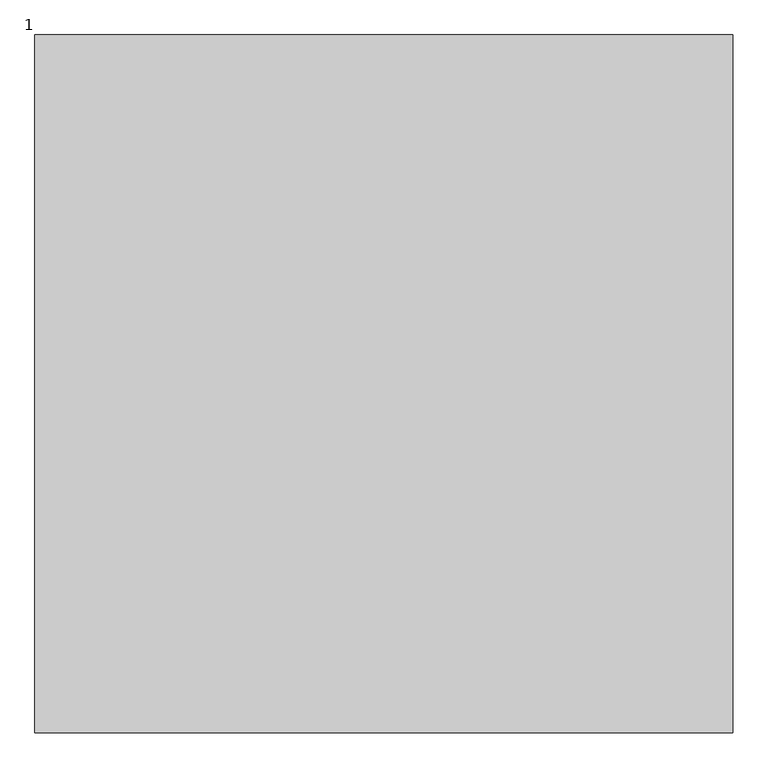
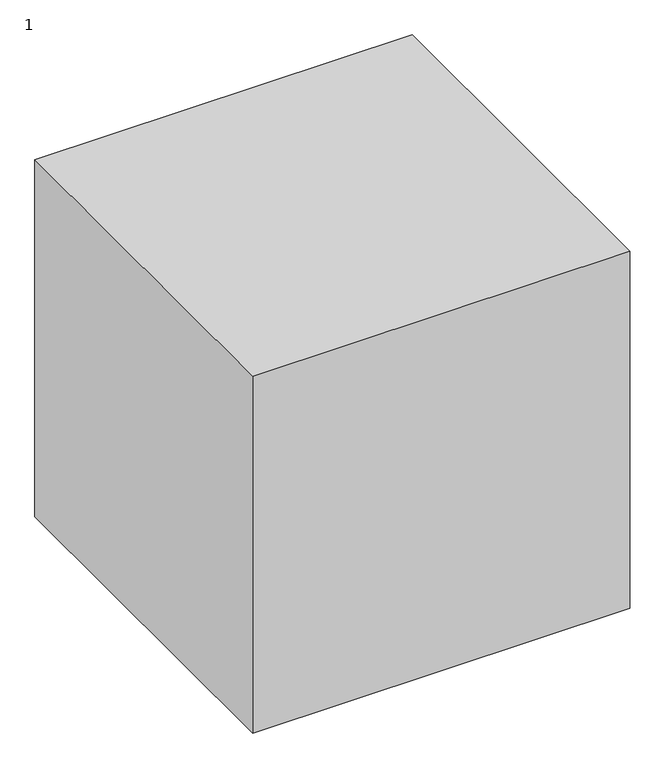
"""IFC4 building model written with IfcOpenShell, lengths in millimetres: proxy geometry, 1221111111 : 1."""

from ifc_helpers import new_model, si_unit, origin, origin_with_axes, place, context, project, spatial, polyline, outline, extrude, source, transform, mapped, element, save


def proxy_1_d043c502(model_context):
    return source(origin(), model_context, "Body", "SweptSolid", [
        extrude(outline(polyline([(15692.0243292, 15335.2294472), (15692.0243292, 14335.2294472), (14692.0243292, 14335.2294472), (14692.0243292, 15335.2294472), (15692.0243292, 15335.2294472)])), origin_with_axes(), (0.0, 0.0, 1.0), 1000.0),
    ])


if __name__ == "__main__":
    model = new_model("IFC4")
    model_context = context("Model", 3, world=origin())
    ifc_project = project(units=[si_unit("LENGTHUNIT", "METRE", prefix="MILLI")], contexts=[model_context])
    site = spatial("IfcSite", under=ifc_project)
    building = spatial("IfcBuilding", under=site)
    placement = place(None, origin())
    proxy_1_shape = proxy_1_d043c502(model_context)
    element("IfcBuildingElementProxy", 1, Name="1221111111 : 1", ObjectType="1221111111 : 1", at=placement, inside=building, context=model_context, shape_type="MappedRepresentation", body=[
        mapped(proxy_1_shape, transform((0.0, 0.0, 0.0), x_axis=(1.0, 0.0, 0.0), y_axis=(0.0, 1.0, 0.0), z_axis=(0.0, 0.0, 1.0))),
    ])
    save(model, "model.ifc")
